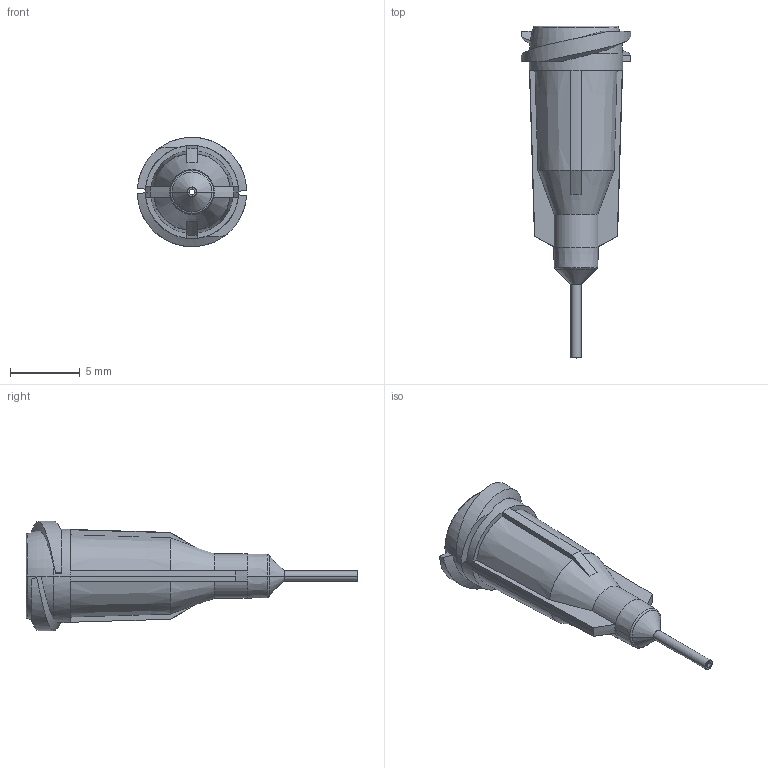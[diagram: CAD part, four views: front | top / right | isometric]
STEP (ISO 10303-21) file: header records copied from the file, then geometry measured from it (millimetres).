
FILE_DESCRIPTION (( 'STEP AP214' ), '1' );
FILE_NAME ('NORDSONEFD-7018259 TIP 22GA GP 016 X 25 BL.STEP', '2019-01-17T19:16:51', ( '' ), ( '' ), 'SwSTEP 2.0', 'SolidWorks 2018', '' );
FILE_SCHEMA (( 'AUTOMOTIVE_DESIGN' ));
Length unit declared in the file: inch
Products named in the file (1): NORDSONEFD-7018259 TIP 22GA GP 016 X 25 BL
Bounding box: 7.82 x 23.72 x 7.82 mm (x, y, z)
Volume: 265.8 mm3; surface area: 560.3 mm2
Topology: 1 solids, 1 shells, 98 faces, 228 edges, 136 vertices
Faces by surface type: plane 26, torus 22, cone 22, cylinder 16, bspline 12
Entity records: 3320 total; most frequent: CARTESIAN_POINT 997, DIRECTION 460, ORIENTED_EDGE 456, EDGE_CURVE 228, AXIS2_PLACEMENT_3D 201, VERTEX_POINT 136, CIRCLE 114, EDGE_LOOP 104
